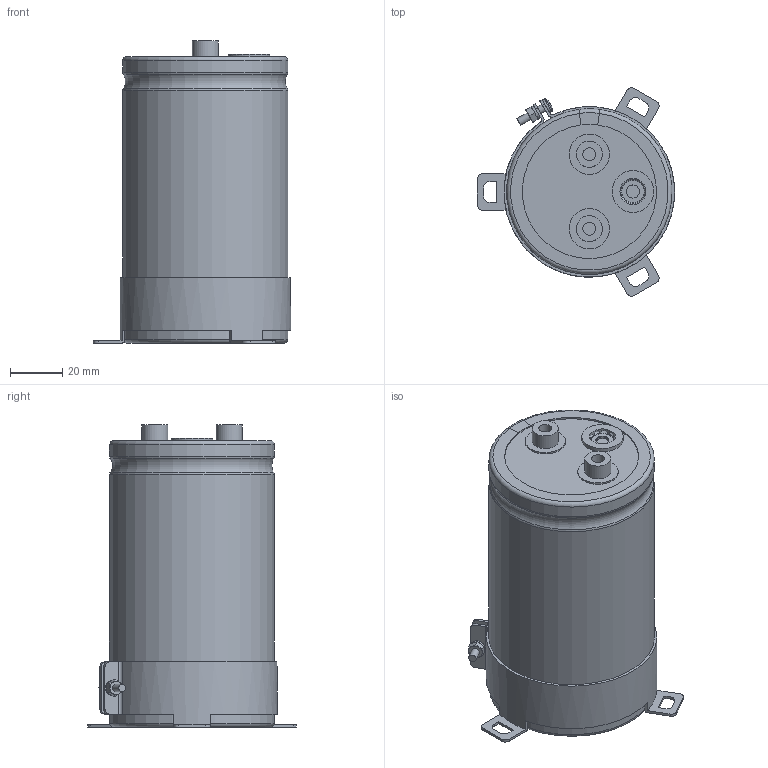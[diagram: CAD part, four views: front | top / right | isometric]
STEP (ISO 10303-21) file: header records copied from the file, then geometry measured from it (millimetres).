
FILE_DESCRIPTION(/* description */ (''),/* implementation_level */ '2;1');
FILE_NAME(/* name */ '63.5x110_Screw.stp',/* time_stamp */ '2017-09-15T19:34:43+09:00',/* author */ (''),/* organization */ (''),/* preprocessor_version */ 'ST-DEVELOPER v16',/* originating_system */ 'SIEMENS PLM Software NX 11.0',/* authorisation */ '');
FILE_SCHEMA (('AUTOMOTIVE_DESIGN { 1 0 10303 214 3 1 1 1 }'));
Length unit declared in the file: millimetre
Products named in the file (1): 63.5x110_Screw
Bounding box: 75.75 x 80.01 x 116 mm (x, y, z)
Volume: 350604.3 mm3; surface area: 86803 mm2
Topology: 9 solids, 9 shells, 259 faces, 644 edges, 415 vertices
Faces by surface type: plane 112, cylinder 66, torus 49, cone 31, sphere 1
Full cylindrical faces by diameter (mm): 3 x5, 5 x6, 5.5 x2, 10 x4, 15.5 x2, 16 x1, 62.3 x2
Entity records: 8411 total; most frequent: CARTESIAN_POINT 2059, DIRECTION 1296, ORIENTED_EDGE 1214, EDGE_CURVE 607, AXIS2_PLACEMENT_3D 541, VERTEX_POINT 408, EDGE_LOOP 317, CIRCLE 281
